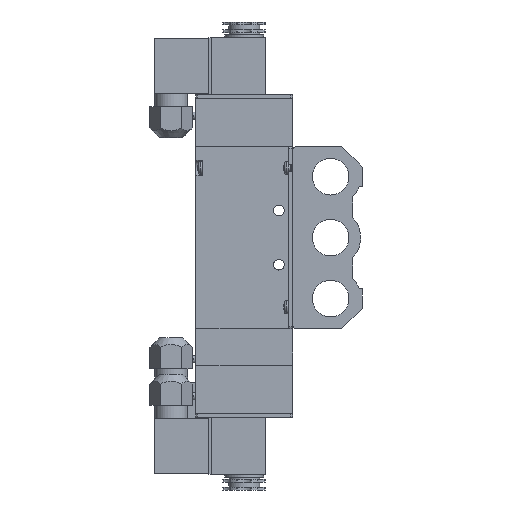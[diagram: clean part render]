
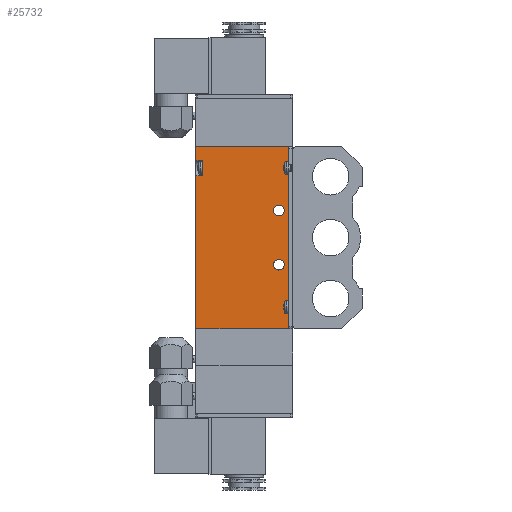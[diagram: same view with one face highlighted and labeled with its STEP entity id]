
A CAD part, left-side view. The second image highlights one B-rep face of the part: STEP entity #25732.
In plain terms, the highlighted planar face has unit normal (-1, 0, 0) as drawn and (0, 0, -1) by its records, which use the part's own axes.
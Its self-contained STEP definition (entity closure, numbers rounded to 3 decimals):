
#125 = ORIENTED_EDGE ( 'NONE', *, *, #3304, .F. ) ;
#203 = DIRECTION ( 'NONE',  ( 0., 1., 0. ) ) ;
#299 = DIRECTION ( 'NONE',  ( 1., 0., 0. ) ) ;
#818 = VECTOR ( 'NONE', #12410, 1000. ) ;
#1212 = AXIS2_PLACEMENT_3D ( 'NONE', #23699, #8581, #24349 ) ;
#1759 = ORIENTED_EDGE ( 'NONE', *, *, #22623, .T. ) ;
#1924 = CIRCLE ( 'NONE', #1212, 2.75 ) ;
#2753 = LINE ( 'NONE', #33592, #17107 ) ;
#3304 = EDGE_CURVE ( 'NONE', #12618, #8514, #24455, .T. ) ;
#3320 = CARTESIAN_POINT ( 'NONE',  ( 47., 25., -17. ) ) ;
#4511 = EDGE_CURVE ( 'NONE', #29816, #29816, #1924, .T. ) ;
#5532 = EDGE_CURVE ( 'NONE', #32826, #28086, #2753, .T. ) ;
#6375 = VERTEX_POINT ( 'NONE', #12707 ) ;
#7289 = CARTESIAN_POINT ( 'NONE',  ( -32., 25., -17. ) ) ;
#7438 = DIRECTION ( 'NONE',  ( 0., 0., 1. ) ) ;
#8514 = VERTEX_POINT ( 'NONE', #7289 ) ;
#8581 = DIRECTION ( 'NONE',  ( 0., 0., 1. ) ) ;
#8793 = CARTESIAN_POINT ( 'NONE',  ( -47., 25., -17. ) ) ;
#9261 = VECTOR ( 'NONE', #13870, 1000. ) ;
#9331 = LINE ( 'NONE', #27369, #23613 ) ;
#9406 = CARTESIAN_POINT ( 'NONE',  ( 16.75, -18., -17. ) ) ;
#9502 = CARTESIAN_POINT ( 'NONE',  ( 47., 25., -17. ) ) ;
#10369 = CARTESIAN_POINT ( 'NONE',  ( -47., 25., -17. ) ) ;
#10776 = VERTEX_POINT ( 'NONE', #25152 ) ;
#11551 = EDGE_CURVE ( 'NONE', #30112, #8514, #9331, .T. ) ;
#11682 = ORIENTED_EDGE ( 'NONE', *, *, #21432, .F. ) ;
#12293 = CARTESIAN_POINT ( 'NONE',  ( -47., -25., -17. ) ) ;
#12380 = EDGE_CURVE ( 'NONE', #10776, #30112, #12411, .T. ) ;
#12410 = DIRECTION ( 'NONE',  ( 0., -1., 0. ) ) ;
#12411 = LINE ( 'NONE', #19765, #27594 ) ;
#12618 = VERTEX_POINT ( 'NONE', #3320 ) ;
#12707 = CARTESIAN_POINT ( 'NONE',  ( -40., 25., -17. ) ) ;
#13232 = EDGE_CURVE ( 'NONE', #23727, #28086, #23047, .T. ) ;
#13382 = DIRECTION ( 'NONE',  ( 0., -1., 0. ) ) ;
#13459 = VECTOR ( 'NONE', #22815, 1000. ) ;
#13644 = FACE_BOUND ( 'NONE', #14943, .T. ) ;
#13870 = DIRECTION ( 'NONE',  ( -1., 0., 0. ) ) ;
#14193 = ORIENTED_EDGE ( 'NONE', *, *, #12380, .T. ) ;
#14561 = CARTESIAN_POINT ( 'NONE',  ( -47., 25., -17. ) ) ;
#14943 = EDGE_LOOP ( 'NONE', ( #34489 ) ) ;
#15475 = VECTOR ( 'NONE', #13382, 1000. ) ;
#16708 = AXIS2_PLACEMENT_3D ( 'NONE', #8793, #17455, #299 ) ;
#17107 = VECTOR ( 'NONE', #27605, 1000. ) ;
#17455 = DIRECTION ( 'NONE',  ( 0., 0., 1. ) ) ;
#19765 = CARTESIAN_POINT ( 'NONE',  ( -47., 21.5, -17. ) ) ;
#20466 = VERTEX_POINT ( 'NONE', #9406 ) ;
#20564 = VECTOR ( 'NONE', #24739, 1000. ) ;
#21432 = EDGE_CURVE ( 'NONE', #10776, #6375, #21900, .T. ) ;
#21900 = LINE ( 'NONE', #31467, #13459 ) ;
#22623 = EDGE_CURVE ( 'NONE', #12618, #32826, #31263, .T. ) ;
#22815 = DIRECTION ( 'NONE',  ( 0., 1., 0. ) ) ;
#22993 = FACE_BOUND ( 'NONE', #32393, .T. ) ;
#23047 = LINE ( 'NONE', #10369, #15475 ) ;
#23358 = ORIENTED_EDGE ( 'NONE', *, *, #5532, .T. ) ;
#23613 = VECTOR ( 'NONE', #203, 1000. ) ;
#23699 = CARTESIAN_POINT ( 'NONE',  ( -14., -18., -17. ) ) ;
#23727 = VERTEX_POINT ( 'NONE', #33796 ) ;
#24349 = DIRECTION ( 'NONE',  ( 1., 0., 0. ) ) ;
#24455 = LINE ( 'NONE', #14561, #9261 ) ;
#24565 = CARTESIAN_POINT ( 'NONE',  ( 14., -18., -17. ) ) ;
#24739 = DIRECTION ( 'NONE',  ( -1., 0., 0. ) ) ;
#24869 = CARTESIAN_POINT ( 'NONE',  ( -47., 25., -17. ) ) ;
#25152 = CARTESIAN_POINT ( 'NONE',  ( -40., 21.5, -17. ) ) ;
#25732 = ADVANCED_FACE ( 'NONE', ( #22993, #13644, #28838 ), #34543, .F. ) ;
#27369 = CARTESIAN_POINT ( 'NONE',  ( -32., 17.437, -17. ) ) ;
#27454 = DIRECTION ( 'NONE',  ( 1., 0., 0. ) ) ;
#27523 = DIRECTION ( 'NONE',  ( 1., 0., 0. ) ) ;
#27594 = VECTOR ( 'NONE', #27523, 1000. ) ;
#27605 = DIRECTION ( 'NONE',  ( -1., 0., 0. ) ) ;
#28060 = ORIENTED_EDGE ( 'NONE', *, *, #4511, .T. ) ;
#28086 = VERTEX_POINT ( 'NONE', #12293 ) ;
#28161 = LINE ( 'NONE', #24869, #20564 ) ;
#28838 = FACE_OUTER_BOUND ( 'NONE', #34701, .T. ) ;
#29174 = EDGE_CURVE ( 'NONE', #6375, #23727, #28161, .T. ) ;
#29816 = VERTEX_POINT ( 'NONE', #33280 ) ;
#30112 = VERTEX_POINT ( 'NONE', #35395 ) ;
#30508 = AXIS2_PLACEMENT_3D ( 'NONE', #24565, #7438, #27454 ) ;
#30909 = CIRCLE ( 'NONE', #30508, 2.75 ) ;
#31263 = LINE ( 'NONE', #9502, #818 ) ;
#31421 = ORIENTED_EDGE ( 'NONE', *, *, #29174, .F. ) ;
#31467 = CARTESIAN_POINT ( 'NONE',  ( -40., 17.437, -17. ) ) ;
#32393 = EDGE_LOOP ( 'NONE', ( #28060 ) ) ;
#32826 = VERTEX_POINT ( 'NONE', #34104 ) ;
#32989 = ORIENTED_EDGE ( 'NONE', *, *, #11551, .T. ) ;
#33280 = CARTESIAN_POINT ( 'NONE',  ( -11.25, -18., -17. ) ) ;
#33592 = CARTESIAN_POINT ( 'NONE',  ( -47., -25., -17. ) ) ;
#33796 = CARTESIAN_POINT ( 'NONE',  ( -47., 25., -17. ) ) ;
#34104 = CARTESIAN_POINT ( 'NONE',  ( 47., -25., -17. ) ) ;
#34475 = ORIENTED_EDGE ( 'NONE', *, *, #13232, .F. ) ;
#34489 = ORIENTED_EDGE ( 'NONE', *, *, #34560, .T. ) ;
#34543 = PLANE ( 'NONE',  #16708 ) ;
#34560 = EDGE_CURVE ( 'NONE', #20466, #20466, #30909, .T. ) ;
#34701 = EDGE_LOOP ( 'NONE', ( #14193, #32989, #125, #1759, #23358, #34475, #31421, #11682 ) ) ;
#35395 = CARTESIAN_POINT ( 'NONE',  ( -32., 21.5, -17. ) ) ;
